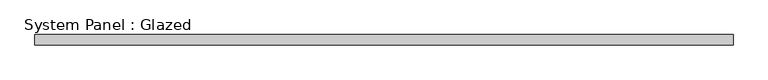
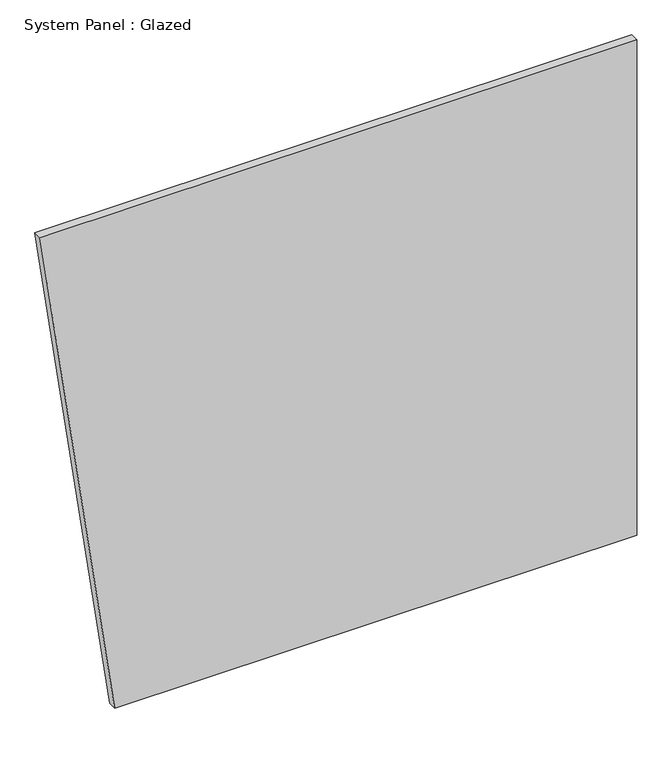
"""IFC4 building model written with IfcOpenShell, lengths in millimetres: plate geometry, System Panel : Glazed."""

from ifc_helpers import new_model, si_unit, frame, origin, place, context, project, spatial, polyline, outline, extrude, source, transform, mapped, element, save


def system_panel_glazed_c7816244(model_context):
    return source(origin(), model_context, "Body", "SweptSolid", [
        extrude(outline(polyline([(0.0, -651.1360655), (0.0, 868.1814206), (1524.0, 868.1814206), (1524.0, -868.1814206), (0.0, -651.1360655)])), frame((0.0, 19.05, 0.0), z_axis=(0.0, 1.0, 0.0), x_axis=(0.0, 0.0, 1.0)), (0.0, 0.0, 1.0), 25.4),
    ])


if __name__ == "__main__":
    model = new_model("IFC4")
    model_context = context("Model", 3, world=origin())
    ifc_project = project(units=[si_unit("LENGTHUNIT", "METRE", prefix="MILLI")], contexts=[model_context])
    site = spatial("IfcSite", under=ifc_project)
    building = spatial("IfcBuilding", under=site)
    placement = place(None, origin())
    system_panel_glazed_shape = system_panel_glazed_c7816244(model_context)
    element("IfcPlate", 1, ObjectType="System Panel : Glazed", at=placement, inside=building, context=model_context, shape_type="MappedRepresentation", body=[
        mapped(system_panel_glazed_shape, transform((0.0, 0.0, 0.0), x_axis=(1.0, 0.0, 0.0), y_axis=(0.0, 1.0, 0.0), z_axis=(0.0, 0.0, 1.0))),
    ])
    save(model, "model.ifc")
